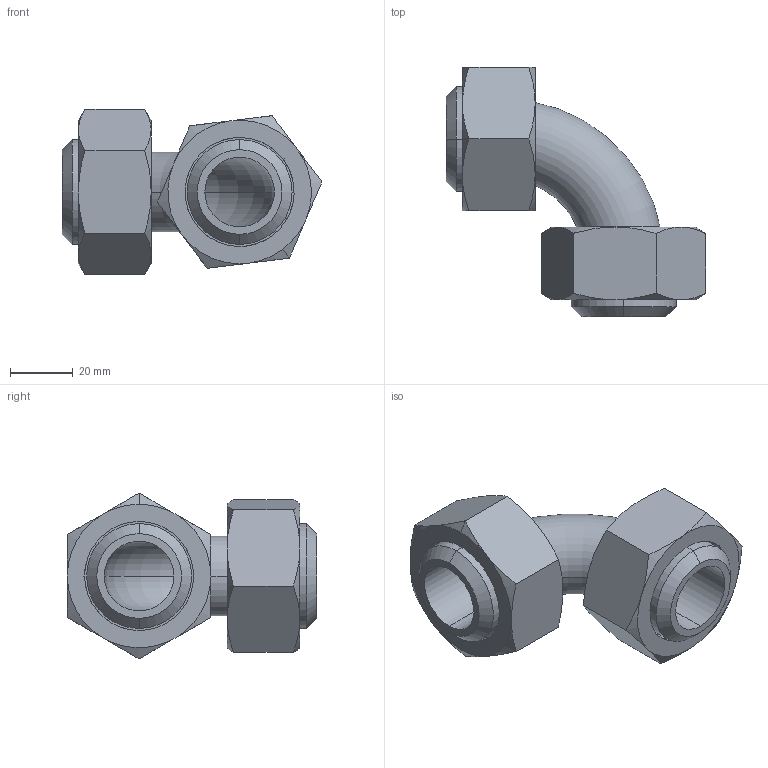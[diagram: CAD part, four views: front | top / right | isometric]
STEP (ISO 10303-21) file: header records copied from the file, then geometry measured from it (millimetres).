
FILE_DESCRIPTION (( 'STEP AP214' ), '1' );
FILE_NAME ('2E 1.0.STEP', '2025-08-26T19:57:13', ( '' ), ( '' ), 'SwSTEP 2.0', 'SolidWorks 2023', '' );
FILE_SCHEMA (( 'AUTOMOTIVE_DESIGN' ));
Length unit declared in the file: millimetre
Products named in the file (4): 2WCL1.0; 2E 1.0; 13H1.0; 14PR 1.0 REV2
Assembly tree (5 placements, depth 2):
  2E 1.0
    13H1.0  x2
    2WCL1.0
    14PR 1.0 REV2  x2
Bounding box: 82.52 x 79.18 x 52.65 mm (x, y, z)
Volume: 54848.9 mm3; surface area: 35763.5 mm2
Topology: 5 solids, 5 shells, 114 faces, 262 edges, 164 vertices
Faces by surface type: cylinder 40, cone 32, plane 32, bspline 6, torus 4
Entity records: 2979 total; most frequent: CARTESIAN_POINT 1570, ORIENTED_EDGE 274, DIRECTION 269, EDGE_CURVE 137, AXIS2_PLACEMENT_3D 117, VERTEX_POINT 86, EDGE_LOOP 69, ADVANCED_FACE 60
